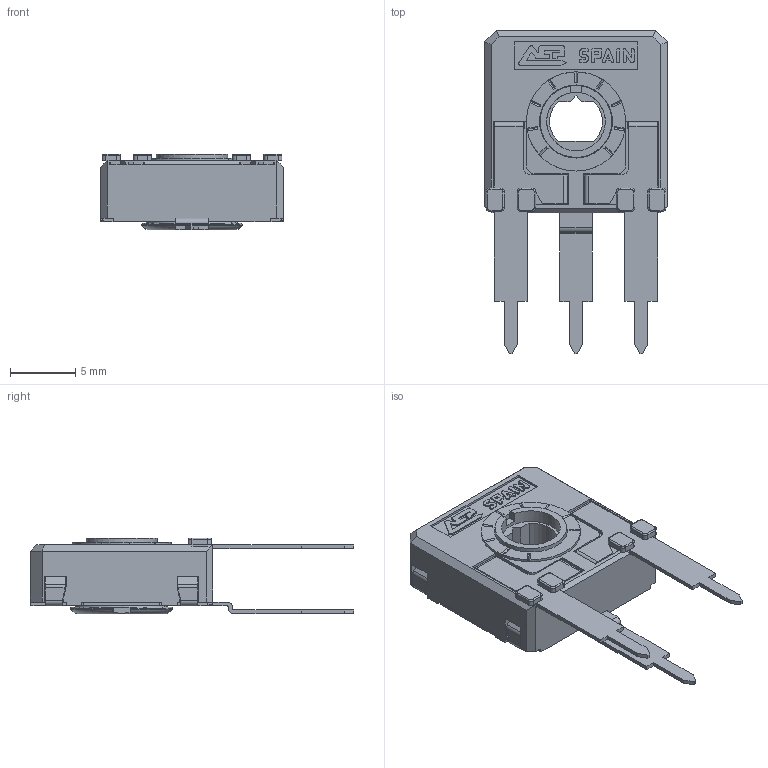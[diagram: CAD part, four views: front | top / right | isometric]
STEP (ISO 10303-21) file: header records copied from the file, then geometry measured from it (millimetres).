
FILE_DESCRIPTION(/* description */ (''),/* implementation_level */ '2;1');
FILE_NAME(/* name */ '\\SERVERACP\intercambio\Ignacio Santa Cecilia\Nueva WEB 2025\CA14 - CE14\CA14KHL5.stp',/* time_stamp */ '2025-06-06T10:46:41+02:00',/* author */ ('CEM'),/* organization */ (''),/* preprocessor_version */ 'ST-DEVELOPER v17',/* originating_system */ 'Autodesk Inventor 2018',/* authorisation */ '');
FILE_SCHEMA (('AUTOMOTIVE_DESIGN { 1 0 10303 214 3 1 1 }'));
Length unit declared in the file: millimetre
Products named in the file (1): CARCASA CA14 PGA
Bounding box: 14 x 24.8 x 5.8 mm (x, y, z)
Volume: 539.5 mm3; surface area: 1518.6 mm2
Topology: 1 solids, 1 shells, 669 faces, 1890 edges, 1217 vertices
Faces by surface type: plane 497, cylinder 135, torus 23, bspline 8, cone 6
Full cylindrical faces by diameter (mm): 4.5 x1, 5.5 x1, 5.6 x1, 5.752 x1, 6.8 x1, 7.6 x1
Entity records: 21849 total; most frequent: CARTESIAN_POINT 4074, ORIENTED_EDGE 3780, DIRECTION 3524, EDGE_CURVE 1890, LINE 1490, VECTOR 1490, VERTEX_POINT 1217, AXIS2_PLACEMENT_3D 1017
